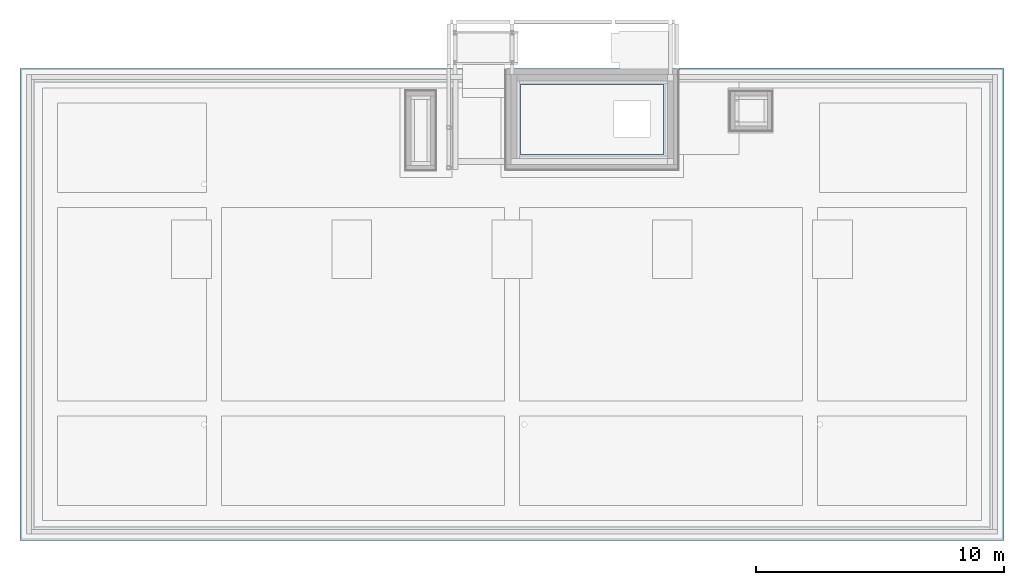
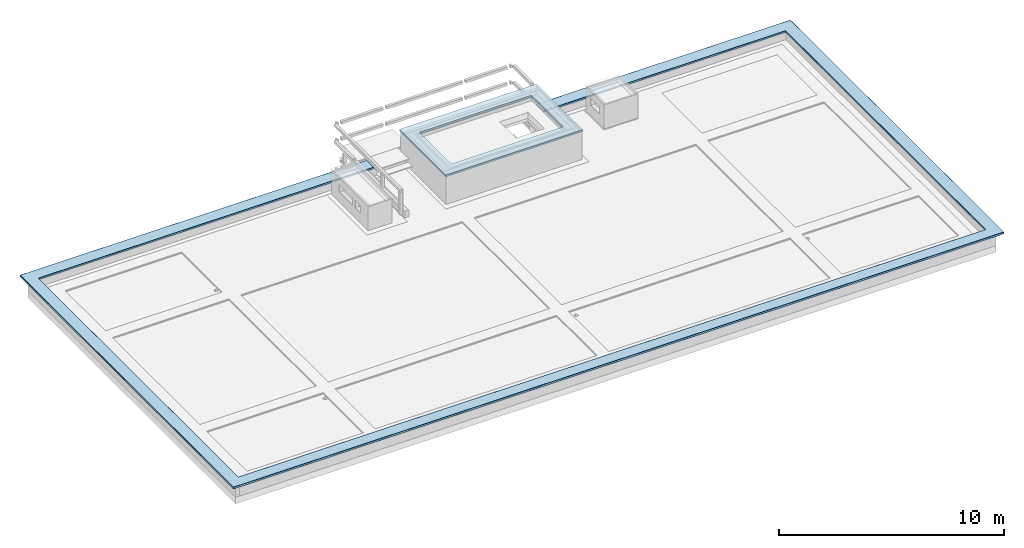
# One storey, part 8 of 8: 2 roofs.
"""IFC2X3 building model written with IfcOpenShell, lengths in centimetres."""

import ifcopenshell
import ifcopenshell.guid

model = None  # the IFC model being written
_history = None  # IfcOwnerHistory: only IFC2X3 demands one
_inside = {}  # id of a spatial element -> (the spatial element, [elements in it])
_under = {}  # id of a project, library or spatial element -> (it, [spatial elements below it])
_declared = {}  # id of a project -> (the project, [libraries it declares])
_typed = {}  # id of a type object -> (the type object, [elements of that type])
_made_of = {}  # id of a material, layer set ... -> (it, [elements and type objects made of it])


def new_model(schema):
    """Start an empty IFC model of exactly this schema.

    Asked for "IFC4X3", IfcOpenShell would pick the latest addendum, in which some entities
    have other attributes; the version numbers below select the first issue.
    IFC2X3 requires an IfcOwnerHistory on every rooted entity: one is made here for all.
    """
    global model, _history
    if schema == "IFC4X3":
        model = ifcopenshell.file(schema_version=(4, 3, 0, 0))
    else:
        model = ifcopenshell.file(schema=schema)
    _inside.clear()
    _under.clear()
    _declared.clear()
    _typed.clear()
    _made_of.clear()
    _history = None
    if model.schema == "IFC2X3":
        org = make("IfcOrganization", Name="unknown")
        user = make(
            "IfcPersonAndOrganization",
            ThePerson=make("IfcPerson", FamilyName="unknown"),
            TheOrganization=org,
        )
        app = make(
            "IfcApplication",
            ApplicationDeveloper=org,
            Version="unknown",
            ApplicationFullName="unknown",
            ApplicationIdentifier="unknown",
        )
        _history = make(
            "IfcOwnerHistory",
            OwningUser=user,
            OwningApplication=app,
            ChangeAction="ADDED",
            CreationDate=0,
        )
    return model


def make(cls, **values):
    """One entity of the class cls with the attributes given. An attribute that is None is left unset."""
    return model.create_entity(
        cls, **{name: value for name, value in values.items() if value is not None}
    )


def entity(cls, *values):
    """Any entity or typed value of the class cls, its attributes in the order of the schema. None: left unset."""
    e = model.create_entity(cls)
    for i, value in enumerate(values):
        if value is not None:
            e[i] = value
    return e


def rooted(cls, **values):
    """An entity with a GlobalId (a new one), such as an element, a storey or a relation."""
    return make(cls, GlobalId=ifcopenshell.guid.new(), OwnerHistory=_history, **values)


def si_unit(unit_type, name, prefix=None):
    """IfcSIUnit, for example si_unit("LENGTHUNIT", "METRE", prefix="MILLI")."""
    return make("IfcSIUnit", UnitType=unit_type, Prefix=prefix, Name=name)


def converted_unit(unit_type, name, factor, base, dimensions=None, offset=None):
    """IfcConversionBasedUnit, such as the inch: factor (a typed value) times the base unit."""
    return make(
        "IfcConversionBasedUnit"
        if offset is None
        else "IfcConversionBasedUnitWithOffset",
        ConversionOffset=offset,
        Dimensions=None
        if dimensions is None
        else entity("IfcDimensionalExponents", *dimensions),
        UnitType=unit_type,
        Name=name,
        ConversionFactor=make(
            "IfcMeasureWithUnit", ValueComponent=factor, UnitComponent=base
        ),
    )


def derived_unit(unit_type, elements):
    """IfcDerivedUnit: a product of units, each with its exponent."""
    return make(
        "IfcDerivedUnit",
        Elements=[
            make("IfcDerivedUnitElement", Unit=unit, Exponent=power)
            for unit, power in elements
        ],
        UnitType=unit_type,
    )


def assignment(units):
    """IfcUnitAssignment: the units of a project."""
    return None if units is None else make("IfcUnitAssignment", Units=units)


def point(xyz):
    """IfcCartesianPoint."""
    return None if xyz is None else make("IfcCartesianPoint", Coordinates=xyz)


def direction(xyz):
    """IfcDirection."""
    return None if xyz is None else make("IfcDirection", DirectionRatios=xyz)


def frame(location, z_axis=None, x_axis=None):
    """IfcAxis2Placement3D, a coordinate frame: its origin and axes. An axis left out is left unset."""
    return make(
        "IfcAxis2Placement3D",
        Location=point(location),
        Axis=direction(z_axis),
        RefDirection=direction(x_axis),
    )


def origin():
    """The frame at (0, 0, 0) with its axes left unset."""
    return frame((0.0, 0.0, 0.0))


def place(relative_to, where):
    """IfcLocalPlacement: puts the frame where relative to a parent placement (None: the world)."""
    return make(
        "IfcLocalPlacement", PlacementRelTo=relative_to, RelativePlacement=where
    )


def context(
    kind, dimensions, precision=None, world=None, true_north=None, identifier=None
):
    """IfcGeometricRepresentationContext, for example the 3D "Model" context."""
    return make(
        "IfcGeometricRepresentationContext",
        ContextIdentifier=identifier,
        ContextType=kind,
        CoordinateSpaceDimension=dimensions,
        Precision=precision,
        WorldCoordinateSystem=world,
        TrueNorth=true_north,
    )


def subcontext(parent, identifier, kind, view, scale=None):
    """IfcGeometricRepresentationSubContext, for example "Body" below "Model"."""
    return make(
        "IfcGeometricRepresentationSubContext",
        ContextIdentifier=identifier,
        ContextType=kind,
        ParentContext=parent,
        TargetScale=scale,
        TargetView=view,
    )


def project(units=None, contexts=None):
    """IfcProject with its units and contexts."""
    return rooted(
        "IfcProject",
        Name="project",
        RepresentationContexts=contexts,
        UnitsInContext=assignment(units),
    )


def spatial(cls, under=None, at=None, **own):
    """A site, building, storey or space (cls), placed at a placement, below another one or the project."""
    s = rooted(cls, ObjectPlacement=at, **own)
    if under is not None:
        _under.setdefault(under.id(), (under, []))[1].append(s)
    return s


def faces_of(points, faces, orient=None, outer=None):
    """IfcFace entities. A face is a list of loops; a loop is a list of indices into points, from 0.

    orient and outer hold one flag for each loop. By default every Orientation is true, the
    first loop of a face is its IfcFaceOuterBound and the others are IfcFaceBound.
    """
    made = []
    for i, loops in enumerate(faces):
        bounds = []
        for j, loop in enumerate(loops):
            is_outer = j == 0 if outer is None else outer[i][j]
            bounds.append(
                make(
                    "IfcFaceOuterBound" if is_outer else "IfcFaceBound",
                    Bound=make("IfcPolyLoop", Polygon=[points[k] for k in loop]),
                    Orientation=True if orient is None else orient[i][j],
                )
            )
        made.append(make("IfcFace", Bounds=bounds))
    return made


def faceted_brep(points, faces, orient=None, outer=None, voids=None):
    """IfcFacetedBrep: a solid bounded by flat faces; with voids (closed shells), ...WithVoids."""
    shared = [point(p) for p in points]
    hull = make("IfcClosedShell", CfsFaces=faces_of(shared, faces, orient, outer))
    if voids is None:
        return make("IfcFacetedBrep", Outer=hull)
    return make(
        "IfcFacetedBrepWithVoids",
        Outer=hull,
        Voids=[
            make(cls, CfsFaces=faces_of(shared, fs, o, b)) for cls, fs, o, b in voids
        ],
    )


def shape(context_of_items, identifier, shape_type, items):
    """IfcShapeRepresentation: the items that make up one representation, for example the "Body"."""
    return make(
        "IfcShapeRepresentation",
        ContextOfItems=context_of_items,
        RepresentationIdentifier=identifier,
        RepresentationType=shape_type,
        Items=items,
    )


def material(Name=None, Category=None):
    """IfcMaterial."""
    return make("IfcMaterial", Name=Name, Category=Category)


def made_of(thing, what):
    """Note that an element or type object is made of a material, layer set ...; save() writes the relation."""
    if what is not None:
        _made_of.setdefault(what.id(), (what, []))[1].append(thing)
    return thing


def element(
    cls,
    number,
    at=None,
    inside=None,
    cuts=None,
    type_object=None,
    material=None,
    context=None,
    identifier="Body",
    shape_type=None,
    held_by="IfcProductDefinitionShape",
    body=None,
    shapes=None,
    **own,
):
    """One element of the class cls, such as IfcWall. Its Tag is "e" and its number.

    at: its placement. inside: the storey or other place that contains it. cuts: it is an
    opening in that element (IfcRelVoidsElement). A single representation is given by context,
    identifier, shape_type and body (its items); several are given by shapes. held_by: the class
    of the entity that holds the representations. save() writes the other relations.
    """
    e = rooted(cls, Tag="e%d" % number, ObjectPlacement=at, **own)
    if body is not None:
        shapes = [shape(context, identifier, shape_type, body)]
    if shapes is not None:
        e.Representation = make(held_by, Representations=shapes)
    if inside is not None:
        _inside.setdefault(inside.id(), (inside, []))[1].append(e)
    if cuts is not None:
        rooted(
            "IfcRelVoidsElement", RelatingBuildingElement=cuts, RelatedOpeningElement=e
        )
    if type_object is not None:
        _typed.setdefault(type_object.id(), (type_object, []))[1].append(e)
    return made_of(e, material)


def aggregate(whole, parts):
    """IfcRelAggregates: a whole, such as a stair, and the parts it consists of."""
    return rooted("IfcRelAggregates", RelatingObject=whole, RelatedObjects=parts)


def save(model, path):
    """Write the relations noted so far, then the file.

    IfcRelAggregates (storeys below a building ...), IfcRelContainedInSpatialStructure (elements
    in a storey), IfcRelDefinesByType, IfcRelAssociatesMaterial and IfcRelDeclares: one each for
    every whole, place, type object, material and project.
    """
    for whole, parts in _under.values():
        aggregate(whole, parts)
    for where, things in _inside.values():
        rooted(
            "IfcRelContainedInSpatialStructure",
            RelatedElements=things,
            RelatingStructure=where,
        )
    for kind, things in _typed.values():
        rooted("IfcRelDefinesByType", RelatedObjects=things, RelatingType=kind)
    for what, things in _made_of.values():
        rooted("IfcRelAssociatesMaterial", RelatedObjects=things, RelatingMaterial=what)
    for by, libraries in _declared.values():
        rooted("IfcRelDeclares", RelatingContext=by, RelatedDefinitions=libraries)
    model.write(path)


model = new_model("IFC2X3")

# Units and contexts
model_context = context("Model", 3, precision=0.001, world=origin(), true_north=direction((6.12303176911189e-17, 1.0)))
body_context = subcontext(model_context, "Body", "Model", "MODEL_VIEW")
ifc_project = project(units=[si_unit("LENGTHUNIT", "METRE", prefix="CENTI"), si_unit("AREAUNIT", "SQUARE_METRE"), si_unit("VOLUMEUNIT", "CUBIC_METRE"), converted_unit("PLANEANGLEUNIT", "DEGREE", entity("IfcRatioMeasure", 0.0174532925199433), si_unit("PLANEANGLEUNIT", "RADIAN"), dimensions=[0, 0, 0, 0, 0, 0, 0]), si_unit("MASSUNIT", "GRAM", prefix="KILO"), derived_unit("MASSDENSITYUNIT", [(si_unit("MASSUNIT", "GRAM", prefix="KILO"), 1), (si_unit("LENGTHUNIT", "METRE"), -3)]), derived_unit("MOMENTOFINERTIAUNIT", [(si_unit("LENGTHUNIT", "METRE"), 4)]), si_unit("TIMEUNIT", "SECOND"), si_unit("FREQUENCYUNIT", "HERTZ"), si_unit("THERMODYNAMICTEMPERATUREUNIT", "DEGREE_CELSIUS"), derived_unit("THERMALTRANSMITTANCEUNIT", [(si_unit("MASSUNIT", "GRAM", prefix="KILO"), 1), (si_unit("THERMODYNAMICTEMPERATUREUNIT", "KELVIN"), -1), (si_unit("TIMEUNIT", "SECOND"), -3)]), derived_unit("VOLUMETRICFLOWRATEUNIT", [(si_unit("LENGTHUNIT", "METRE"), 3), (si_unit("TIMEUNIT", "SECOND"), -1)]), si_unit("ELECTRICCURRENTUNIT", "AMPERE"), si_unit("ELECTRICVOLTAGEUNIT", "VOLT"), si_unit("POWERUNIT", "WATT"), si_unit("FORCEUNIT", "NEWTON", prefix="KILO"), si_unit("ILLUMINANCEUNIT", "LUX"), si_unit("LUMINOUSFLUXUNIT", "LUMEN"), si_unit("LUMINOUSINTENSITYUNIT", "CANDELA"), derived_unit("USERDEFINED", [(si_unit("MASSUNIT", "GRAM", prefix="KILO"), -1), (si_unit("LENGTHUNIT", "METRE"), -2), (si_unit("TIMEUNIT", "SECOND"), 3), (si_unit("LUMINOUSFLUXUNIT", "LUMEN"), 1)]), derived_unit("LINEARVELOCITYUNIT", [(si_unit("LENGTHUNIT", "METRE"), 1), (si_unit("TIMEUNIT", "SECOND"), -1)]), si_unit("PRESSUREUNIT", "PASCAL"), derived_unit("USERDEFINED", [(si_unit("LENGTHUNIT", "METRE"), -2), (si_unit("MASSUNIT", "GRAM", prefix="KILO"), 1), (si_unit("TIMEUNIT", "SECOND"), -2)]), derived_unit("LINEARFORCEUNIT", [(si_unit("MASSUNIT", "GRAM", prefix="KILO"), 1), (si_unit("LENGTHUNIT", "METRE"), 1), (si_unit("TIMEUNIT", "SECOND"), -2), (si_unit("LENGTHUNIT", "METRE"), -1)]), derived_unit("PLANARFORCEUNIT", [(si_unit("MASSUNIT", "GRAM", prefix="KILO"), 1), (si_unit("LENGTHUNIT", "METRE"), 1), (si_unit("TIMEUNIT", "SECOND"), -2), (si_unit("LENGTHUNIT", "METRE"), -2)])], contexts=[model_context])

# Site, building, storey
site_placement = place(None, origin())
site = spatial("IfcSite", under=ifc_project, at=site_placement, Name="Default", CompositionType="ELEMENT")
building_placement = place(site_placement, origin())
building = spatial("IfcBuilding", under=site, at=building_placement, CompositionType="ELEMENT")
storey_placement = place(building_placement, frame((0.0, 0.0, 970.0)))
storey = spatial("IfcBuildingStorey", under=building, at=storey_placement, Name="Poziom 2K +9,70", CompositionType="ELEMENT", Elevation=970.0)

# Roofs
ifc_material = material(Name="Blacha tytna cynk")
roof_1_placement = place(storey_placement, frame((-2959.92499660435, 229.467576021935, 69.800000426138)))
element("IfcRoof", 1, at=roof_1_placement, inside=storey, material=ifc_material, Name="Obróbka attyki:Obróbka attyki", ObjectType="Obróbka attyki:Obróbka attyki", ShapeType="NOTDEFINED", context=body_context, shape_type="Brep", body=[
    faceted_brep([(2655.22974500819, 1879.21445685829, 5.69967443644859), (2655.22974500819, 1862.11920136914, 5.69967443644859), (2655.22974500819, 1861.89488855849, 5.7543858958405), (2655.22974500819, 1861.70879165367, 5.89105162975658), (2655.22974500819, 1860.35427118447, 8.20502509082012), (2655.22974500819, 1860.26429296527, 8.28747405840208), (2655.22974500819, 1860.18369668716, 8.30350632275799), (2655.22974500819, 1848.88787667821, 8.05718079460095), (2655.22974500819, 1848.88787667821, 8.45727589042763), (2655.22974500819, 1860.24886491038, 8.70502252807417), (2655.22974500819, 1860.47771922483, 8.64296589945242), (2655.22974500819, 1860.64588899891, 8.47580056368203), (2655.22974500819, 1862.00029667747, 6.16201978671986), (2655.22974500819, 1862.10805391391, 6.09980611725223), (2655.22974500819, 1879.22467001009, 6.09980611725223), (2655.22974500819, 1879.3971087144, 6.21778007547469), (2655.22974500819, 1881.44758273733, 9.10017052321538), (2655.22974500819, 1881.63700265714, 9.2345664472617), (2655.22974500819, 1881.86362495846, 9.28540445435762), (2655.22974500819, 1901.78233110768, 9.73310872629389), (2655.22974500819, 1901.78233110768, 9.23310872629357), (2655.22974500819, 1881.89052435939, 8.88589594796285), (2655.22974500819, 1881.78950397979, 8.87497351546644), (2655.22974500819, 1881.73755136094, 8.83021832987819), (2655.22974500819, 1879.65751957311, 5.90627797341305), (2655.22974500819, 1879.45888966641, 5.75386388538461), (3918.55321603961, 1860.18369668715, 8.30350632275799), (3907.25739603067, 1848.88787667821, 8.05718079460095), (3907.25739603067, 1848.88787667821, 8.45727589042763), (3918.61838426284, 1860.24886491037, 8.70502252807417), (3918.84723857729, 1860.47771922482, 8.64296589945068), (3919.01540835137, 1860.64588899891, 8.47580056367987), (3920.36981602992, 1862.00029667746, 6.16201978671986), (3920.47757326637, 1862.1080539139, 6.09980611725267), (27.2954316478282, 1874.02432042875, 6.09980611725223), (27.2954316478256, 27.2954316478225, 6.09980611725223), (3937.59418936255, 27.2954316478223, 6.09980611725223), (3937.59418936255, 1879.22467001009, 6.09980611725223), (3920.47757326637, 44.4120477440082, 6.09980611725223), (44.4120477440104, 44.4120477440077, 6.09980611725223), (44.412047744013, 1856.90770433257, 6.09980611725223), (1738.15990306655, 1856.90770433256, 6.09980611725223), (1738.15990306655, 1874.02432042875, 6.09980611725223), (3937.76662806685, 1879.39710871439, 6.21778007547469), (3939.81710208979, 1881.44758273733, 9.10017052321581), (3940.0065220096, 1881.63700265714, 9.23456644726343), (3940.23314431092, 1881.86362495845, 9.28540445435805), (3960.15185046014, 1901.78233110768, 9.73310872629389), (3960.15185046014, 1901.78233110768, 9.23310872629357), (3940.26004371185, 1881.89052435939, 8.88589594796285), (3940.15902333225, 1881.78950397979, 8.87497351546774), (3940.10707071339, 1881.73755136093, 8.83021832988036), (3938.02703892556, 1879.6575195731, 5.90627797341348), (3937.82840901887, 1879.45888966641, 5.75386388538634), (3937.58397621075, 1879.21445685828, 5.69967443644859), (27.305644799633, 1874.01410727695, 5.69967443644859), (1738.15990306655, 1874.01410727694, 5.69967443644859), (1738.15990306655, 1856.9188517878, 5.69967443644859), (44.40090028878, 1856.9188517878, 5.69967443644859), (44.4009002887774, 44.4009002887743, 5.69967443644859), (3920.4887207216, 44.4009002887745, 5.69967443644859), (3920.4887207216, 1862.11920136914, 5.69967443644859), (3937.58397621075, 27.305644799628, 5.69967443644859), (27.3056447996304, 27.305644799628, 5.69967443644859), (3920.26440791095, 1861.89488855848, 5.75438589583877), (3920.07831100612, 1861.70879165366, 5.89105162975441), (3918.72379053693, 1860.35427118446, 8.20502509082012), (3918.63381231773, 1860.26429296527, 8.28747405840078), (3918.55321603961, 46.3364049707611, 8.30350632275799), (3907.25739603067, 57.6322249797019, 8.05718079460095), (3907.25739603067, 57.6322249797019, 8.45727589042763), (3918.61838426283, 46.2712367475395, 8.70502252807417), (3918.84723857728, 46.0423824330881, 8.64296589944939), (3919.01540835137, 45.8742126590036, 8.475800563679), (3920.36981602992, 44.5198049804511, 6.16201978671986), (3937.76662806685, 27.1229929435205, 6.21778007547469), (3939.81710208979, 25.0725189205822, 9.10017052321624), (3940.0065220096, 24.8830990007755, 9.2345664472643), (3940.23314431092, 24.6564766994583, 9.28540445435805), (3960.15185046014, 4.73777055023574, 9.73310872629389), (3960.15185046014, 4.73777055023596, 9.23310872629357), (3940.26004371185, 24.6295772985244, 8.88589594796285), (3940.15902333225, 24.7305976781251, 8.87497351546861), (3940.10707071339, 24.78255029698, 8.83021832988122), (3938.02703892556, 26.8625820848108, 5.90627797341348), (3937.82840901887, 27.0612119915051, 5.7538638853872), (3920.26440791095, 44.6252130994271, 5.7543858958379), (3920.07831100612, 44.8113100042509, 5.89105162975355), (3918.72379053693, 46.1658304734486, 8.20502509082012), (3918.63381231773, 46.2558086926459, 8.28747405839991), (46.3364049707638, 46.3364049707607, 8.30350632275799), (57.632224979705, 57.6322249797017, 8.05718079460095), (57.632224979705, 57.6322249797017, 8.45727589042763), (46.2712367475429, 46.2712367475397, 8.70502252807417), (46.0423824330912, 46.0423824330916, 8.64296589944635), (45.874212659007, 45.8742126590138, 8.47580056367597), (44.5198049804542, 44.5198049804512, 6.16201978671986), (27.1229929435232, 27.1229929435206, 6.21778007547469), (25.0725189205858, 25.0725189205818, 9.10017052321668), (24.8830990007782, 24.883099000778, 9.2345664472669), (24.6564766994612, 24.6564766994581, 9.28540445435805), (4.73777055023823, 4.73777055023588, 9.73310872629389), (4.73777055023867, 4.73777055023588, 9.23310872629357), (24.6295772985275, 24.6295772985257, 8.88589594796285), (24.7305976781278, 24.7305976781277, 8.87497351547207), (24.7825502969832, 24.7825502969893, 8.83021832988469), (26.8625820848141, 26.8625820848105, 5.90627797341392), (27.0612119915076, 27.0612119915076, 5.7538638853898), (44.6252130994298, 44.6252130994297, 5.75438589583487), (44.8113100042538, 44.8113100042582, 5.89105162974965), (46.1658304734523, 46.1658304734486, 8.20502509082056), (46.255808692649, 46.2558086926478, 8.28747405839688), (46.336404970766, 1854.98334710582, 8.30350632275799), (57.6322249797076, 1843.68752709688, 8.05718079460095), (57.6322249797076, 1843.68752709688, 8.45727589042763), (46.2712367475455, 1855.04851532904, 8.70502252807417), (46.0423824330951, 1855.27736964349, 8.64296589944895), (45.8742126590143, 1855.44553941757, 8.47580056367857), (44.5198049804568, 1856.79994709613, 6.16201978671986), (27.1229929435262, 1874.19675913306, 6.21778007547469), (25.0725189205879, 1876.24723315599, 9.10017052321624), (24.8830990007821, 1876.4366530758, 9.2345664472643), (24.6564766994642, 1876.66327537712, 9.28540445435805), (4.7377705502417, 1896.58198152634, 9.73310872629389), (4.7377705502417, 1896.58198152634, 9.23310872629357), (24.629577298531, 1876.69017477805, 8.88589594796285), (24.7305976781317, 1876.58915439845, 8.87497351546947), (24.7825502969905, 1876.5372017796, 8.83021832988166), (26.8625820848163, 1874.45716999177, 5.90627797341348), (27.0612119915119, 1874.25854008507, 5.75386388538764), (44.6252130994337, 1856.69453897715, 5.75438589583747), (44.8113100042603, 1856.50844207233, 5.89105162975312), (46.1658304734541, 1855.15392160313, 8.20502509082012), (46.2558086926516, 1855.06394338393, 8.28747405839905), (1738.15990306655, 1856.79994709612, 6.16201978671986), (1738.15990306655, 1855.44553941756, 8.475800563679), (1738.15990306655, 1855.27736964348, 8.64296589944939), (1738.15990306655, 1855.04851532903, 8.70502252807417), (1738.15990306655, 1843.68752709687, 8.45727589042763), (1738.15990306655, 1843.68752709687, 8.05718079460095), (1738.15990306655, 1854.98334710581, 8.30350632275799), (1738.15990306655, 1855.09973911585, 8.26680738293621), (1738.15990306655, 1855.15392160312, 8.20502509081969), (1738.15990306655, 1856.50844207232, 5.89105162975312), (1738.15990306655, 1856.69453897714, 5.7543858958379), (1738.15990306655, 1874.25854008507, 5.7538638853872), (1738.15990306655, 1874.45716999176, 5.90627797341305), (1738.15990306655, 1876.53720177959, 8.83021832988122), (1738.15990306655, 1876.6216086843, 8.88678590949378), (1738.15990306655, 1876.69017477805, 8.88589594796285), (1738.15990306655, 1896.58198152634, 9.23310872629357), (1738.15990306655, 1896.58198152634, 9.73310872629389), (1738.15990306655, 1876.66327537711, 9.28540445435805), (1738.15990306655, 1876.4366530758, 9.2345664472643), (1738.15990306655, 1876.24723315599, 9.10017052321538), (1738.15990306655, 1874.19675913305, 6.21778007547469)], [[[0, 1, 2, 3, 4, 5, 6, 7, 8, 9, 10, 11, 12, 13, 14, 15, 16, 17, 18, 19, 20, 21, 22, 23, 24, 25]], [[7, 6, 26, 27]], [[8, 7, 27, 28]], [[9, 8, 28, 29]], [[9, 29, 30, 10]], [[30, 31, 11, 10]], [[12, 11, 31, 32]], [[13, 12, 32, 33]], [[34, 35, 36, 37, 14, 13, 33, 38, 39, 40, 41, 42]], [[15, 14, 37, 43]], [[16, 15, 43, 44]], [[16, 44, 45, 17]], [[45, 46, 18, 17]], [[19, 18, 46, 47]], [[20, 19, 47, 48]], [[21, 20, 48, 49]], [[50, 22, 21, 49]], [[50, 51, 23, 22]], [[24, 23, 51, 52]], [[25, 24, 52, 53]], [[54, 0, 25, 53]], [[55, 56, 57, 58, 59, 60, 61, 1, 0, 54, 62, 63]], [[2, 1, 61, 64]], [[65, 3, 2, 64]], [[4, 3, 65, 66]], [[67, 5, 4, 66]], [[67, 26, 6, 5]], [[27, 26, 68, 69]], [[28, 27, 69, 70]], [[29, 28, 70, 71]], [[29, 71, 72, 30]], [[72, 73, 31, 30]], [[32, 31, 73, 74]], [[33, 32, 74, 38]], [[43, 37, 36, 75]], [[44, 43, 75, 76]], [[44, 76, 77, 45]], [[77, 78, 46, 45]], [[47, 46, 78, 79]], [[48, 47, 79, 80]], [[49, 48, 80, 81]], [[81, 82, 50, 49]], [[83, 51, 50, 82]], [[52, 51, 83, 84]], [[52, 84, 85, 53]], [[85, 62, 54, 53]], [[61, 60, 86, 64]], [[86, 87, 65, 64]], [[66, 65, 87, 88]], [[89, 67, 66, 88]], [[68, 26, 67, 89]], [[69, 68, 90, 91]], [[70, 69, 91, 92]], [[71, 70, 92, 93]], [[71, 93, 94, 72]], [[94, 95, 73, 72]], [[74, 73, 95, 96]], [[38, 74, 96, 39]], [[75, 36, 35, 97]], [[76, 75, 97, 98]], [[76, 98, 99, 77]], [[99, 100, 78, 77]], [[79, 78, 100, 101]], [[80, 79, 101, 102]], [[81, 80, 102, 103]], [[104, 82, 81, 103]], [[104, 105, 83, 82]], [[84, 83, 105, 106]], [[85, 84, 106, 107]], [[107, 63, 62, 85]], [[60, 59, 108, 86]], [[108, 109, 87, 86]], [[88, 87, 109, 110]], [[111, 89, 88, 110]], [[111, 90, 68, 89]], [[91, 90, 112, 113]], [[92, 91, 113, 114]], [[93, 92, 114, 115]], [[93, 115, 116, 94]], [[116, 117, 95, 94]], [[96, 95, 117, 118]], [[39, 96, 118, 40]], [[97, 35, 34, 119]], [[98, 97, 119, 120]], [[98, 120, 121, 99]], [[121, 122, 100, 99]], [[101, 100, 122, 123]], [[102, 101, 123, 124]], [[103, 102, 124, 125]], [[125, 126, 104, 103]], [[127, 105, 104, 126]], [[106, 105, 127, 128]], [[106, 128, 129, 107]], [[129, 55, 63, 107]], [[59, 58, 130, 108]], [[130, 131, 109, 108]], [[110, 109, 131, 132]], [[133, 111, 110, 132]], [[112, 90, 111, 133]], [[42, 41, 134, 135, 136, 137, 138, 139, 140, 141, 142, 143, 144, 57, 56, 145, 146, 147, 148, 149, 150, 151, 152, 153, 154, 155]], [[113, 112, 140, 139]], [[114, 113, 139, 138]], [[115, 114, 138, 137]], [[116, 115, 137, 136]], [[135, 117, 116, 136]], [[118, 117, 135, 134]], [[40, 118, 134, 41]], [[119, 34, 42, 155]], [[120, 119, 155, 154]], [[121, 120, 154, 153]], [[152, 122, 121, 153]], [[123, 122, 152, 151]], [[124, 123, 151, 150]], [[125, 124, 150, 149]], [[149, 148, 125]], [[126, 125, 148]], [[147, 127, 126]], [[148, 147, 126]], [[128, 127, 147, 146]], [[128, 146, 145, 129]], [[145, 56, 55, 129]], [[58, 57, 144, 130]], [[144, 143, 131, 130]], [[132, 131, 143, 142]], [[142, 141, 132]], [[133, 132, 141]], [[140, 112, 133]], [[141, 140, 133]]]),
    faceted_brep([(2655.65989374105, 1900.576005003, 0.242126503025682), (2655.65989374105, 1899.22973999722, 1.18479140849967), (2655.65989374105, 1899.41887019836, 1.37392160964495), (2655.65989374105, 1900.71997942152, 0.500340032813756), (2655.65989374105, 1900.83666825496, 0.540939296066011), (2655.65989374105, 1900.86022565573, 0.662222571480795), (2655.65989374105, 1900.86022565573, 9.7999775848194), (2655.65989374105, 1900.83092875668, 9.87070655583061), (2655.65989374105, 1900.76019978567, 9.90000345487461), (2655.65989374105, 1841.53669250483, 8.49057136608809), (2655.65989374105, 1841.48227856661, 8.46803237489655), (2655.65989374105, 1841.45973957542, 8.41361843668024), (2655.65989374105, 1841.45973957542, 0.602088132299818), (2655.65989374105, 1841.50429196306, 0.51650379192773), (2655.65989374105, 1841.59995275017, 0.503909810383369), (2655.65989374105, 1842.95345153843, 1.41685627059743), (2655.65989374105, 1843.12615027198, 1.16081986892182), (2655.65989374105, 1841.83137105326, 0.287480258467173), (2655.65989374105, 1841.54852578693, 0.196237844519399), (2655.65989374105, 1841.21401854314, 0.395635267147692), (2655.65989374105, 1841.15974025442, 0.687834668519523), (2655.65989374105, 1841.15974025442, 8.33102846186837), (2655.65989374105, 1841.26044160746, 8.62276397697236), (2655.65989374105, 1841.51966127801, 8.79026184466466), (2655.65989374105, 1900.7522264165, 10.1999094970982), (2655.65989374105, 1901.04072487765, 10.0804095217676), (2655.65989374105, 1901.16022485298, 9.79191106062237), (2655.65989374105, 1901.16022485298, 0.514552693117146), (2655.65989374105, 1900.91317992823, 0.175907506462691), (3901.83137606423, 1841.83137105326, 0.287480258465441), (3901.5485307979, 1841.54852578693, 0.196237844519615), (1782.15988639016, 1841.83137105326, 0.287480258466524), (1782.15988639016, 1841.54852578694, 0.196237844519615), (59.7712262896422, 1841.54852578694, 0.196237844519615), (59.4883810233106, 1841.83137105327, 0.287480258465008), (3901.21402355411, 1841.21401854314, 0.395635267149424), (1782.15988639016, 1841.21401854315, 0.395635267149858), (60.1057335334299, 1841.21401854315, 0.395635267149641), (3901.15974526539, 1841.15974025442, 0.687834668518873), (1782.15988639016, 1841.15974025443, 0.687834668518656), (60.1600118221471, 1841.15974025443, 0.687834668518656), (3901.15974526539, 1841.15974025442, 8.33102846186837), (60.1600118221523, 1841.15974025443, 8.33102846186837), (1782.15988639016, 1841.15974025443, 8.33102846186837), (3901.26044661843, 1841.26044160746, 8.62276397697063), (60.0593104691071, 1841.26044160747, 8.6227639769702), (1782.15988639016, 1841.26044160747, 8.6227639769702), (3901.51966628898, 1841.519661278, 8.79026184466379), (1782.15988639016, 1841.51966127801, 8.79026184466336), (59.800090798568, 1841.51966127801, 8.79026184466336), (3960.75223142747, 1900.7522264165, 10.1999094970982), (0.567525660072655, 1900.75222641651, 10.1999094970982), (1782.15988639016, 1900.75222641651, 10.1999094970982), (3961.04072988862, 1901.04072487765, 10.0804095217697), (0.279027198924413, 1901.04072487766, 10.0804095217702), (1782.15988639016, 1901.04072487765, 10.0804095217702), (3961.16022986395, 1901.16022485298, 9.79191106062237), (1782.15988639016, 1901.16022485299, 9.79191106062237), (0.159527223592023, 1901.16022485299, 9.79191106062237), (3961.16022986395, 1901.16022485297, 0.514552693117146), (0.159527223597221, 1901.16022485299, 0.514552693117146), (1782.15988639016, 1901.16022485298, 0.514552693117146), (3960.9131849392, 1900.91317992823, 0.175907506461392), (3960.57601001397, 1900.576005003, 0.242126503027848), (0.406572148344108, 1900.91317992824, 0.175907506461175), (1782.15988639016, 1900.576005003, 0.242126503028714), (0.743747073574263, 1900.57600500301, 0.242126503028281), (3959.22974500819, 1899.22973999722, 1.18479140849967), (2.09001207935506, 1899.22973999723, 1.18479140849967), (1782.15988639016, 1899.22973999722, 1.18479140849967), (3959.41887520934, 1899.41887019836, 1.37392160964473), (1.90088187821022, 1899.41887019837, 1.37392160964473), (1782.15988639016, 1899.41887019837, 1.37392160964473), (3960.71998443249, 1900.71997942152, 0.500340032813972), (0.599772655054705, 1900.71997942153, 0.500340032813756), (1782.15988639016, 1900.71997942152, 0.500340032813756), (3960.83667326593, 1900.83666825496, 0.540939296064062), (1782.15988639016, 1900.83666825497, 0.540939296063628), (0.483083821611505, 1900.83666825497, 0.540939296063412), (3960.8602306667, 1900.86022565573, 0.662222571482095), (1782.15988639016, 1900.86022565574, 0.662222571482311), (0.459526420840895, 1900.86022565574, 0.662222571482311), (3960.8602306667, 1900.86022565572, 9.7999775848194), (0.459526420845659, 1900.86022565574, 9.7999775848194), (1782.15988639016, 1900.86022565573, 9.7999775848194), (3960.83093376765, 1900.83092875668, 9.87070655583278), (0.488823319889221, 1900.83092875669, 9.87070655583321), (1782.15988639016, 1900.83092875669, 9.87070655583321), (3960.76020479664, 1900.76019978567, 9.90000345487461), (1782.15988639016, 1900.76019978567, 9.90000345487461), (0.559552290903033, 1900.76019978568, 9.90000345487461), (3901.5366975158, 1841.53669250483, 8.49057136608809), (59.7830595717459, 1841.53669250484, 8.49057136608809), (1782.15988639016, 1841.53669250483, 8.49057136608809), (3901.48228357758, 1841.48227856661, 8.46803237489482), (1782.15988639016, 1841.48227856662, 8.46803237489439), (59.8374735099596, 1841.48227856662, 8.46803237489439), (3901.45974458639, 1841.45973957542, 8.41361843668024), (1782.15988639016, 1841.45973957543, 8.41361843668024), (59.8600125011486, 1841.45973957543, 8.41361843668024), (3901.45974458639, 1841.45973957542, 0.602088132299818), (59.8600125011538, 1841.45973957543, 0.602088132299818), (1782.15988639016, 1841.45973957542, 0.602088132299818), (3901.50429697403, 1841.50429196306, 0.516503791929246), (1782.15988639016, 1841.50429196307, 0.516503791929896), (59.8154601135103, 1841.50429196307, 0.516503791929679), (3901.59995776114, 1841.59995275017, 0.503909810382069), (1782.15988639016, 1841.59995275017, 0.503909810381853), (59.719799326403, 1841.59995275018, 0.503909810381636), (3902.9534565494, 1842.95345153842, 1.41685627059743), (58.3663005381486, 1842.95345153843, 1.41685627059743), (1782.15988639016, 1842.95345153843, 1.41685627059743), (3903.12615528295, 1843.12615027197, 1.16081986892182), (58.1936018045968, 1843.12615027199, 1.16081986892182), (1782.15988639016, 1843.12615027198, 1.16081986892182), (3901.83137606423, 59.4883810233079, 0.287480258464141), (3901.5485307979, 59.7712262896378, 0.196237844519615), (3901.21402355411, 60.1057335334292, 0.395635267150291), (3901.1597452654, 60.1600118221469, 0.68783466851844), (3901.15974526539, 60.1600118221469, 8.33102846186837), (3901.26044661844, 60.0593104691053, 8.62276397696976), (3901.51966628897, 59.8000907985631, 8.79026184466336), (3960.75223142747, 0.567525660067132, 10.1999094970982), (3961.04072988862, 0.279027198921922, 10.080409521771), (3961.16022986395, 0.159527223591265, 9.79191106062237), (3961.16022986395, 0.159527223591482, 0.514552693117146), (3960.9131849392, 0.406572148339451, 0.175907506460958), (3960.57601001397, 0.743747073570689, 0.242126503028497), (3959.22974500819, 2.09001207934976, 1.18479140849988), (3959.41887520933, 1.90088187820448, 1.37392160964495), (3960.71998443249, 0.599772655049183, 0.500340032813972), (3960.83667326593, 0.483083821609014, 0.540939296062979), (3960.8602306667, 0.45952642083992, 0.662222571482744), (3960.8602306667, 0.45952642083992, 9.7999775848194), (3960.83093376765, 0.488823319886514, 9.87070655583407), (3960.76020479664, 0.559552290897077, 9.90000345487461), (3901.5366975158, 59.7830595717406, 8.49057136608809), (3901.48228357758, 59.8374735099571, 8.46803237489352), (3901.45974458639, 59.8600125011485, 8.41361843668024), (3901.45974458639, 59.8600125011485, 0.602088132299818), (3901.50429697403, 59.8154601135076, 0.516503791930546), (3901.59995776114, 59.7197993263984, 0.503909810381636), (3902.95345654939, 58.3663005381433, 1.41685627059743), (3903.12615528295, 58.1936018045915, 1.16081986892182), (59.4883810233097, 59.4883810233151, 0.287480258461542), (59.7712262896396, 59.7712262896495, 0.196237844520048), (60.1057335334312, 60.1057335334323, 0.39563526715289), (60.1600118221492, 60.1600118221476, 0.687834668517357), (60.1600118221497, 60.1600118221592, 8.33102846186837), (60.059310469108, 60.0593104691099, 8.62276397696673), (59.8000907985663, 59.8000907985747, 8.79026184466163), (0.567525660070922, 0.567525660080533, 10.1999094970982), (0.279027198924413, 0.279027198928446, 10.0804095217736), (0.159527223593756, 0.159527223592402, 9.79191106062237), (0.159527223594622, 0.159527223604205, 0.514552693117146), (0.406572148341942, 0.40657214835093, 0.175907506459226), (0.743747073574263, 0.743747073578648, 0.242126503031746), (2.0900120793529, 2.0900120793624, 1.18479140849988), (1.90088187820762, 1.90088187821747, 1.37392160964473), (0.59977265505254, 0.599772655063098, 0.500340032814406), (0.483083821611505, 0.483083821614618, 0.540939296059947), (0.459526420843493, 0.459526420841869, 0.662222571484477), (0.45952642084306, 0.459526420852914, 9.7999775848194), (0.488823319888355, 0.488823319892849, 9.87070655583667), (0.559552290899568, 0.559552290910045, 9.90000345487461), (59.7830595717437, 59.7830595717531, 8.49057136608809), (59.8374735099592, 59.8374735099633, 8.46803237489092), (59.8600125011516, 59.8600125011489, 8.41361843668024), (59.8600125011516, 59.8600125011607, 0.602088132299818), (59.8154601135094, 59.8154601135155, 0.516503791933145), (59.7197993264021, 59.7197993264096, 0.50390981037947), (58.3663005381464, 58.3663005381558, 1.41685627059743), (58.1936018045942, 58.193601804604, 1.16081986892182), (1782.15988639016, 1900.99421968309, 0.213696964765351)], [[[0, 1, 2, 3, 4, 5, 6, 7, 8, 9, 10, 11, 12, 13, 14, 15, 16, 17, 18, 19, 20, 21, 22, 23, 24, 25, 26, 27, 28]], [[29, 30, 18, 17]], [[31, 32, 33, 34]], [[30, 35, 19, 18]], [[32, 36, 37, 33]], [[35, 38, 20, 19]], [[36, 39, 40, 37]], [[21, 20, 38, 41]], [[42, 40, 39, 43]], [[21, 41, 44, 22]], [[45, 42, 43, 46]], [[44, 47, 23, 22]], [[48, 49, 45, 46]], [[24, 23, 47, 50]], [[51, 49, 48, 52]], [[24, 50, 53, 25]], [[54, 51, 52, 55]], [[53, 56, 26, 25]], [[57, 58, 54, 55]], [[27, 26, 56, 59]], [[60, 58, 57, 61]], [[27, 59, 62, 28]], [[63, 0, 28, 62]], [[64, 65, 66]], [[1, 0, 63, 67]], [[68, 66, 65, 69]], [[2, 1, 67, 70]], [[71, 68, 69, 72]], [[3, 2, 70, 73]], [[74, 71, 72, 75]], [[73, 76, 4, 3]], [[77, 78, 74, 75]], [[79, 5, 4, 76]], [[77, 80, 81, 78]], [[6, 5, 79, 82]], [[83, 81, 80, 84]], [[6, 82, 85, 7]], [[86, 83, 84, 87]], [[85, 88, 8, 7]], [[89, 90, 86, 87]], [[9, 8, 88, 91]], [[92, 90, 89, 93]], [[94, 10, 9, 91]], [[93, 95, 96, 92]], [[94, 97, 11, 10]], [[98, 99, 96, 95]], [[12, 11, 97, 100]], [[101, 99, 98, 102]], [[100, 103, 13, 12]], [[104, 105, 101, 102]], [[106, 14, 13, 103]], [[104, 107, 108, 105]], [[15, 14, 106, 109]], [[110, 108, 107, 111]], [[16, 15, 109, 112]], [[113, 110, 111, 114]], [[17, 16, 112, 29]], [[34, 113, 114, 31]], [[115, 116, 30, 29]], [[116, 117, 35, 30]], [[117, 118, 38, 35]], [[41, 38, 118, 119]], [[41, 119, 120, 44]], [[120, 121, 47, 44]], [[50, 47, 121, 122]], [[50, 122, 123, 53]], [[123, 124, 56, 53]], [[59, 56, 124, 125]], [[59, 125, 126, 62]], [[126, 127, 63, 62]], [[67, 63, 127, 128]], [[70, 67, 128, 129]], [[73, 70, 129, 130]], [[130, 131, 76, 73]], [[132, 79, 76, 131]], [[82, 79, 132, 133]], [[82, 133, 134, 85]], [[134, 135, 88, 85]], [[91, 88, 135, 136]], [[136, 137, 94, 91]], [[138, 97, 94, 137]], [[100, 97, 138, 139]], [[139, 140, 103, 100]], [[141, 106, 103, 140]], [[109, 106, 141, 142]], [[112, 109, 142, 143]], [[29, 112, 143, 115]], [[144, 145, 116, 115]], [[145, 146, 117, 116]], [[146, 147, 118, 117]], [[119, 118, 147, 148]], [[119, 148, 149, 120]], [[149, 150, 121, 120]], [[122, 121, 150, 151]], [[122, 151, 152, 123]], [[152, 153, 124, 123]], [[125, 124, 153, 154]], [[125, 154, 155, 126]], [[156, 127, 126, 155]], [[128, 127, 156, 157]], [[129, 128, 157, 158]], [[130, 129, 158, 159]], [[159, 160, 131, 130]], [[161, 132, 131, 160]], [[133, 132, 161, 162]], [[133, 162, 163, 134]], [[163, 164, 135, 134]], [[136, 135, 164, 165]], [[166, 137, 136, 165]], [[166, 167, 138, 137]], [[139, 138, 167, 168]], [[168, 169, 140, 139]], [[170, 141, 140, 169]], [[142, 141, 170, 171]], [[143, 142, 171, 172]], [[115, 143, 172, 144]], [[34, 33, 145, 144]], [[33, 37, 146, 145]], [[37, 40, 147, 146]], [[148, 147, 40, 42]], [[148, 42, 45, 149]], [[45, 49, 150, 149]], [[151, 150, 49, 51]], [[151, 51, 54, 152]], [[54, 58, 153, 152]], [[154, 153, 58, 60]], [[154, 60, 64, 155]], [[64, 66, 156, 155]], [[157, 156, 66, 68]], [[158, 157, 68, 71]], [[159, 158, 71, 74]], [[74, 160, 159]], [[78, 160, 74]], [[81, 161, 160, 78]], [[162, 161, 81, 83]], [[162, 83, 86, 163]], [[86, 90, 164, 163]], [[165, 164, 90, 92]], [[92, 96, 166, 165]], [[99, 167, 166, 96]], [[168, 167, 99, 101]], [[101, 105, 169, 168]], [[108, 170, 169, 105]], [[171, 170, 108, 110]], [[172, 171, 110, 113]], [[144, 172, 113, 34]], [[173, 61, 57, 55, 52, 48, 46, 43, 39, 36, 32, 31, 114, 111, 107, 104, 102, 98, 95, 93, 89, 87, 84, 80, 77, 75, 72, 69, 65]], [[61, 173, 60]], [[60, 173, 64]], [[65, 64, 173]]]),
])
roof_2_placement = place(storey_placement, frame((-1009.26511810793, 1718.12744150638, 180.043071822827)))
element("IfcRoof", 2, at=roof_2_placement, inside=storey, material=ifc_material, Name="obróbka nadszybia:obróbka nadszybia", ObjectType="obróbka nadszybia:obróbka nadszybia", ShapeType="NOTDEFINED", context=body_context, shape_type="Brep", body=[
    faceted_brep([(0.0, 412.000019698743, 5.81991443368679e-06), (0.0, 412.000019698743, 10.0000058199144), (705.000015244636, 412.00001969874, 10.0000058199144), (705.000015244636, 412.00001969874, 5.81991443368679e-06), (0.500002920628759, 411.500016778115, 9.50004854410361), (0.500002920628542, 411.500016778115, 5.81991443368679e-06), (704.500012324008, 411.500016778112, 5.81991443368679e-06), (704.500012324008, 411.500016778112, 9.50004854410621), (64.5000029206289, 347.500016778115, 0.0), (64.5000029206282, 347.500016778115, 9.50004854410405), (640.500012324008, 347.500016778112, 9.50004854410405), (640.500012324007, 347.500016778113, 0.0), (65.0000020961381, 347.000017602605, 10.0000058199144), (65.0000020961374, 347.000017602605, 0.0), (640.000013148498, 347.000017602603, 0.0), (640.000013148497, 347.000017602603, 10.0000058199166), (705.000015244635, 0.0, 10.0000058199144), (705.000015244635, 0.0, 5.81991443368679e-06), (704.500012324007, 0.500002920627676, 5.81991443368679e-06), (704.500012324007, 0.500002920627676, 9.50004854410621), (640.500012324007, 64.5000029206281, 9.50004854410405), (640.500012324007, 64.5000029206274, 0.0), (640.000013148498, 65.0000020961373, 0.0), (640.000013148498, 65.0000020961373, 10.0000058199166), (0.0, 0.0, 10.0000058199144), (0.0, 0.0, 5.81991443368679e-06), (0.500002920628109, 0.500002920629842, 5.81991443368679e-06), (0.500002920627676, 0.500002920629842, 9.50004854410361), (64.5000029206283, 64.5000029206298, 9.50004854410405), (64.5000029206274, 64.5000029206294, 0.0), (65.0000020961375, 65.000002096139, 0.0), (65.0000020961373, 65.0000020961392, 10.0000058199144)], [[[0, 1, 2, 3]], [[4, 5, 6, 7]], [[8, 9, 10, 11]], [[12, 13, 14, 15]], [[3, 2, 16, 17]], [[7, 6, 18, 19]], [[11, 10, 20, 21]], [[15, 14, 22, 23]], [[17, 16, 24, 25]], [[19, 18, 26, 27]], [[21, 20, 28, 29]], [[23, 22, 30, 31]], [[25, 24, 1, 0]], [[3, 17, 25, 0], [5, 26, 18, 6]], [[27, 26, 5, 4]], [[7, 19, 27, 4], [9, 28, 20, 10]], [[29, 28, 9, 8]], [[11, 21, 29, 8], [13, 30, 22, 14]], [[31, 30, 13, 12]], [[15, 23, 31, 12], [1, 24, 16, 2]]], outer=[[True], [True], [True], [True], [True], [True], [True], [True], [True], [True], [True], [True], [True], [True, False], [True], [True, False], [True], [True, False], [True], [False, True]]),
])

save(model, "model.ifc")
